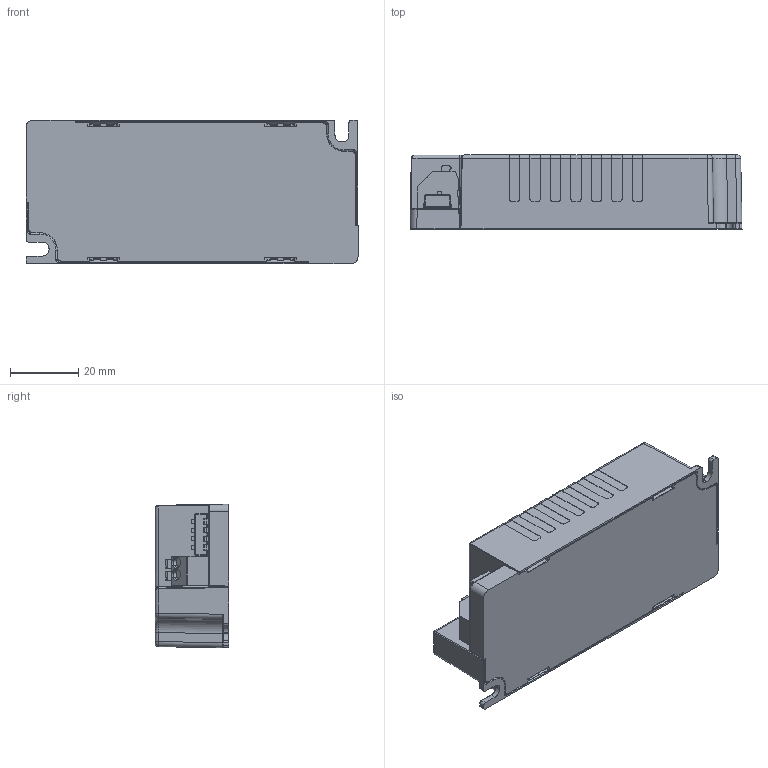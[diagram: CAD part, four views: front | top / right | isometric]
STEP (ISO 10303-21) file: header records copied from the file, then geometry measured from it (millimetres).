
FILE_DESCRIPTION (( 'STEP AP214' ), '1' );
FILE_NAME ('ProflatBI-SM.STEP', '2019-02-25T08:57:23', ( 'Utente' ), ( '' ), 'SwSTEP 2.0', 'SolidWorks 2018', '' );
FILE_SCHEMA (( 'AUTOMOTIVE_DESIGN' ));
Length unit declared in the file: millimetre
Products named in the file (4): TE1769; CALOTTA BL725-488787433; BASE BL724-488787432; ProflatBI-SM
Assembly tree (3 placements, depth 2):
  ProflatBI-SM
    BASE BL724-488787432
    CALOTTA BL725-488787433
    TE1769
Bounding box: 97.4 x 21.7 x 42.2 mm (x, y, z)
Volume: 24027.8 mm3; surface area: 37302.1 mm2
Topology: 18 solids, 18 shells, 1356 faces, 3580 edges, 2284 vertices
Faces by surface type: plane 675, cylinder 485, bspline 176, cone 10, sphere 8, torus 2
Entity records: 51586 total; most frequent: CARTESIAN_POINT 13970, ORIENTED_EDGE 7120, DIRECTION 5992, EDGE_CURVE 3560, VECTOR 2284, LINE 2284, VERTEX_POINT 2284, AXIS2_PLACEMENT_3D 1854
